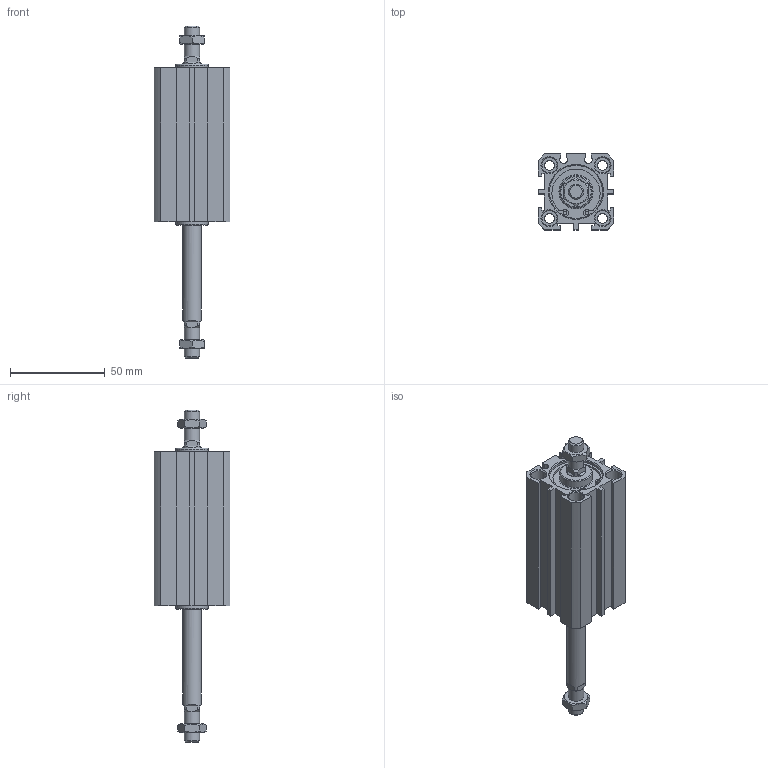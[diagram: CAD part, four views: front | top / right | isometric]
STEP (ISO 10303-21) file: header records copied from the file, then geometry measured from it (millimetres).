
FILE_DESCRIPTION((''),'2;1');
FILE_NAME('I:\3D電子目錄\氣缸\JDD\JDD-BS\JDD25-BS\JDD25x50-BS.stp','2007-02-27T13:51:03',('662F206'),(''),'Autodesk Inventor 10','Autodesk Inventor 10','');
FILE_SCHEMA(('AUTOMOTIVE_DESIGN { 1 0 10303 214 1 1 1 1 }'));
Length unit declared in the file: millimetre
Products named in the file (3): JDD25-BS; R 形環 28
Assembly tree (3 placements, depth 2):
  JDD25-BS
    JDD25-BS
    R 形環 28  x2
Bounding box: 40 x 40 x 175.2 mm (x, y, z)
Volume: 110334.1 mm3; surface area: 32594.6 mm2
Topology: 3 solids, 3 shells, 192 faces, 454 edges, 294 vertices
Faces by surface type: plane 108, cylinder 50, cone 26, bspline 6, torus 2
Full cylindrical faces by diameter (mm): 1.5 x2, 1.9 x4, 5.1 x4, 8 x12, 10 x2, 17 x2, 28 x4, 29.4 x2
Entity records: 4989 total; most frequent: CARTESIAN_POINT 1022, DIRECTION 812, ORIENTED_EDGE 724, EDGE_CURVE 362, AXIS2_PLACEMENT_3D 310, EDGE_LOOP 272, VERTEX_POINT 266, VECTOR 192
